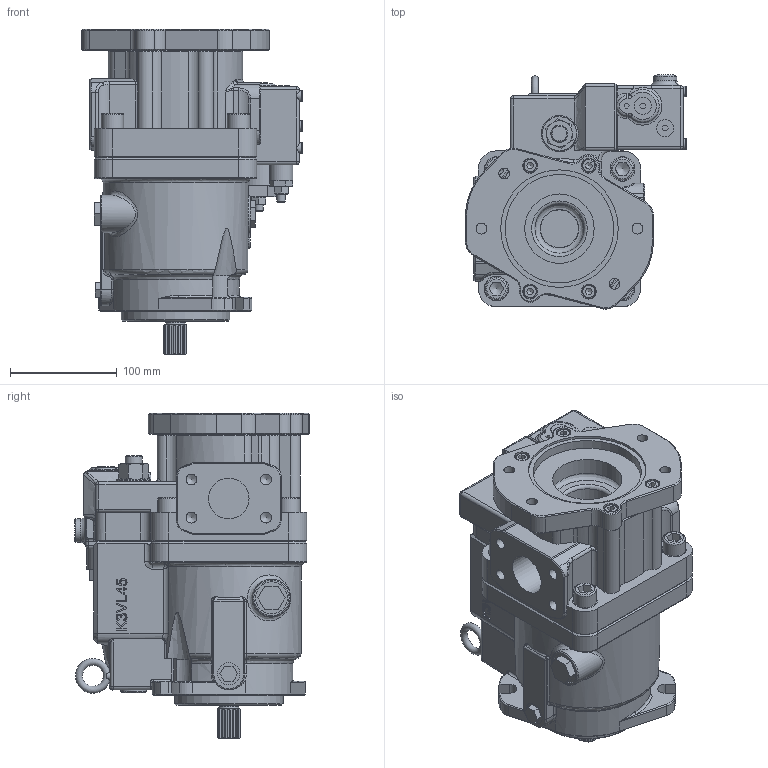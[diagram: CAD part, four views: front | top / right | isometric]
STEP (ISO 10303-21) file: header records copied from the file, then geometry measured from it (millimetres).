
FILE_DESCRIPTION((''),'2;1');
FILE_NAME('J:\Inventor\K3V, M2X\MODEL LIBRARY\K3VL45B 1BBRTM PO.stp','2008-04-30T13:01:49',('mnorman'),(''),'Autodesk Inventor 2008','Autodesk Inventor 2008','');
FILE_SCHEMA(('AUTOMOTIVE_DESIGN { 1 0 10303 214 1 1 1 1 }'));
Length unit declared in the file: millimetre
Products named in the file (1): Part8
Bounding box: 207 x 219.21 x 305 mm (x, y, z)
Volume: 5126597.7 mm3; surface area: 371462 mm2
Topology: 1 solids, 24 shells, 1307 faces, 3122 edges, 1916 vertices
Faces by surface type: plane 563, cylinder 286, bspline 240, cone 167, torus 42, sphere 9
Full cylindrical faces by diameter (mm): 6 x4, 6.5 x4, 8 x9, 9 x2, 10 x4, 11 x4, 13 x4, 14 x6, 16 x4, 18.2 x1, 21 x5, 22 x2, 24 x1, 25 x1, 30 x4, 32 x1, 35.5 x1, 36 x1, 38 x1, 46 x1, 65 x1, 75 x1, 82.55 x2, 90 x2, 101.6 x2, 105 x1, 110 x1
Entity records: 50178 total; most frequent: CARTESIAN_POINT 21500, ORIENTED_EDGE 5630, DIRECTION 5473, EDGE_CURVE 2815, AXIS2_PLACEMENT_3D 2062, VERTEX_POINT 1817, EDGE_LOOP 1592, VECTOR 1349
